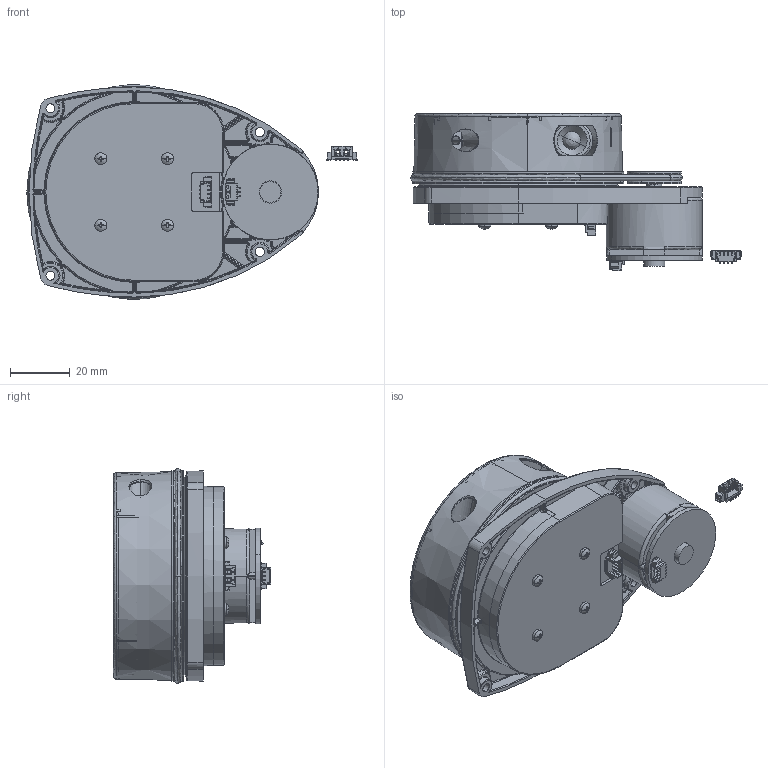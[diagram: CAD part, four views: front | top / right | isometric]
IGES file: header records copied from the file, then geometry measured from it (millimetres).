
Start section: SolidWorks IGES file using analytic representation for surfaces
Global section: file name: 3HF:\5-无线充电雷达\无线充电雷达 （W2）\RPLIDAR 1.5_for comsumer\无线-RPLIDAR-1.5.IGS; native system: SolidWorks 2015; preprocessor: SolidWorks 2015; author: Wangyc; date: 160503.165849; units: millimetre
Bounding box: 110.44 x 52.5 x 71.67 mm (x, y, z)
Volume: 63778.6 mm3; surface area: 80404.4 mm2
Topology: 27 solids, 30 shells, 3993 faces, 23558 edges, 28724 vertices
Faces by surface type: revolution 1684, plane 1463, bspline 846
